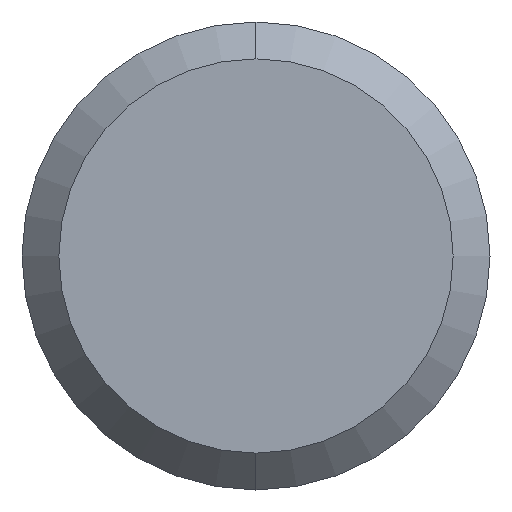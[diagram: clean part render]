
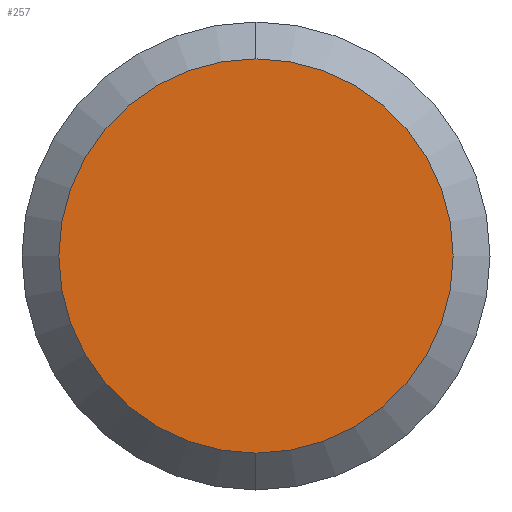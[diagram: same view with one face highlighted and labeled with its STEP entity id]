
A CAD part, left-side view. The second image highlights one B-rep face of the part: STEP entity #257.
In plain terms, the highlighted planar face has unit normal (-1, 0, 0).
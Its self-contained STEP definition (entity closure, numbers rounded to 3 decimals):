
#6 = CIRCLE ( 'NONE', #256, 5.35 ) ;
#8 = CARTESIAN_POINT ( 'NONE',  ( -109.1, 0., -5.35 ) ) ;
#28 = VERTEX_POINT ( 'NONE', #8 ) ;
#32 = CARTESIAN_POINT ( 'NONE',  ( -109.1, 0., 5.35 ) ) ;
#39 = EDGE_CURVE ( 'NONE', #28, #211, #241, .T. ) ;
#42 = DIRECTION ( 'NONE',  ( -1., 0., 0. ) ) ;
#45 = DIRECTION ( 'NONE',  ( 1., 0., 0. ) ) ;
#59 = EDGE_LOOP ( 'NONE', ( #281, #86 ) ) ;
#72 = CARTESIAN_POINT ( 'NONE',  ( -109.1, 6.35, 0. ) ) ;
#86 = ORIENTED_EDGE ( 'NONE', *, *, #336, .T. ) ;
#122 = AXIS2_PLACEMENT_3D ( 'NONE', #72, #45, #248 ) ;
#126 = CARTESIAN_POINT ( 'NONE',  ( -109.1, 0., 0. ) ) ;
#148 = DIRECTION ( 'NONE',  ( 0., 0., -1. ) ) ;
#179 = CARTESIAN_POINT ( 'NONE',  ( -109.1, 0., 0. ) ) ;
#207 = AXIS2_PLACEMENT_3D ( 'NONE', #179, #339, #148 ) ;
#211 = VERTEX_POINT ( 'NONE', #32 ) ;
#214 = PLANE ( 'NONE',  #122 ) ;
#216 = FACE_OUTER_BOUND ( 'NONE', #59, .T. ) ;
#227 = DIRECTION ( 'NONE',  ( 0., 0., -1. ) ) ;
#241 = CIRCLE ( 'NONE', #207, 5.35 ) ;
#248 = DIRECTION ( 'NONE',  ( 0., 0., -1. ) ) ;
#256 = AXIS2_PLACEMENT_3D ( 'NONE', #126, #42, #227 ) ;
#257 = ADVANCED_FACE ( 'NONE', ( #216 ), #214, .F. ) ;
#281 = ORIENTED_EDGE ( 'NONE', *, *, #39, .T. ) ;
#336 = EDGE_CURVE ( 'NONE', #211, #28, #6, .T. ) ;
#339 = DIRECTION ( 'NONE',  ( -1., 0., 0. ) ) ;
